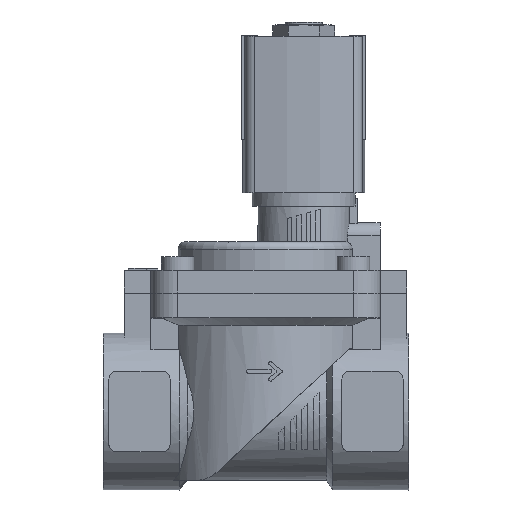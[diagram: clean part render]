
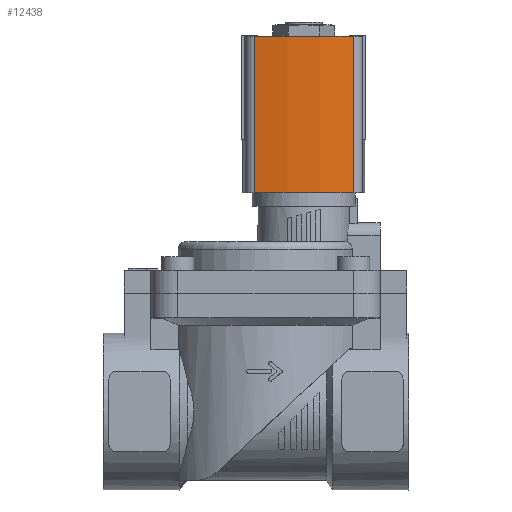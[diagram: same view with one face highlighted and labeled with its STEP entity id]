
A CAD part, top view. The second image highlights one B-rep face of the part: STEP entity #12438.
In plain terms, the highlighted cylindrical face has radius 60 mm (diameter 120 mm), a partial arc.
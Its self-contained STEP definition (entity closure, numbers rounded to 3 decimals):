
#238=CYLINDRICAL_SURFACE('',#13284,60.);
#1211=LINE('',#19060,#2269);
#1212=LINE('',#19064,#2270);
#2269=VECTOR('',#15767,1000.);
#2270=VECTOR('',#15772,1000.);
#4578=ORIENTED_EDGE('',*,*,#6567,.T.);
#4579=ORIENTED_EDGE('',*,*,#6568,.F.);
#4580=ORIENTED_EDGE('',*,*,#5853,.F.);
#4581=ORIENTED_EDGE('',*,*,#6566,.T.);
#5853=EDGE_CURVE('',#7096,#7097,#7818,.T.);
#6566=EDGE_CURVE('',#7096,#7602,#1211,.T.);
#6567=EDGE_CURVE('',#7602,#7603,#7912,.T.);
#6568=EDGE_CURVE('',#7097,#7603,#1212,.T.);
#7096=VERTEX_POINT('',#17714);
#7097=VERTEX_POINT('',#17716);
#7602=VERTEX_POINT('',#19059);
#7603=VERTEX_POINT('',#19063);
#7818=CIRCLE('',#13064,60.);
#7912=CIRCLE('',#13285,60.);
#8332=EDGE_LOOP('',(#4578,#4579,#4580,#4581));
#8907=FACE_BOUND('',#8332,.T.);
#12438=ADVANCED_FACE('',(#8907),#238,.T.);
#13064=AXIS2_PLACEMENT_3D('',#17715,#14708,#14709);
#13284=AXIS2_PLACEMENT_3D('',#19061,#15768,#15769);
#13285=AXIS2_PLACEMENT_3D('',#19062,#15770,#15771);
#14708=DIRECTION('',(0.,1.,0.));
#14709=DIRECTION('',(1.,0.,0.));
#15767=DIRECTION('',(0.,-1.,0.));
#15768=DIRECTION('',(0.,-1.,0.));
#15769=DIRECTION('',(0.,0.,-1.));
#15770=DIRECTION('',(0.,1.,0.));
#15771=DIRECTION('',(1.,0.,0.));
#15772=DIRECTION('',(0.,-1.,0.));
#17714=CARTESIAN_POINT('',(19.078,15.,12.986));
#17715=CARTESIAN_POINT('',(-39.5,15.,0.));
#17716=CARTESIAN_POINT('',(19.078,15.,-12.986));
#19059=CARTESIAN_POINT('',(19.078,-26.,12.986));
#19060=CARTESIAN_POINT('',(19.078,15.,12.986));
#19061=CARTESIAN_POINT('',(-39.5,15.,0.));
#19062=CARTESIAN_POINT('',(-39.5,-26.,0.));
#19063=CARTESIAN_POINT('',(19.078,-26.,-12.986));
#19064=CARTESIAN_POINT('',(19.078,15.,-12.986));
